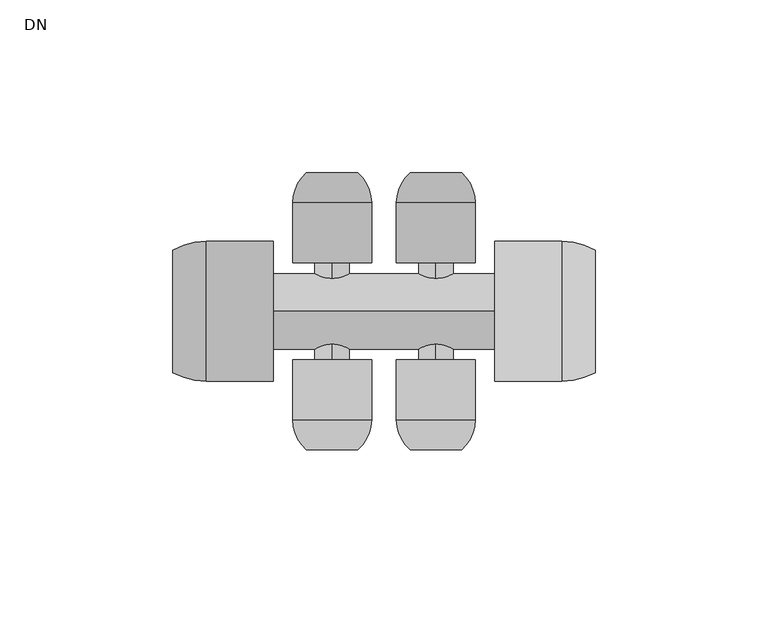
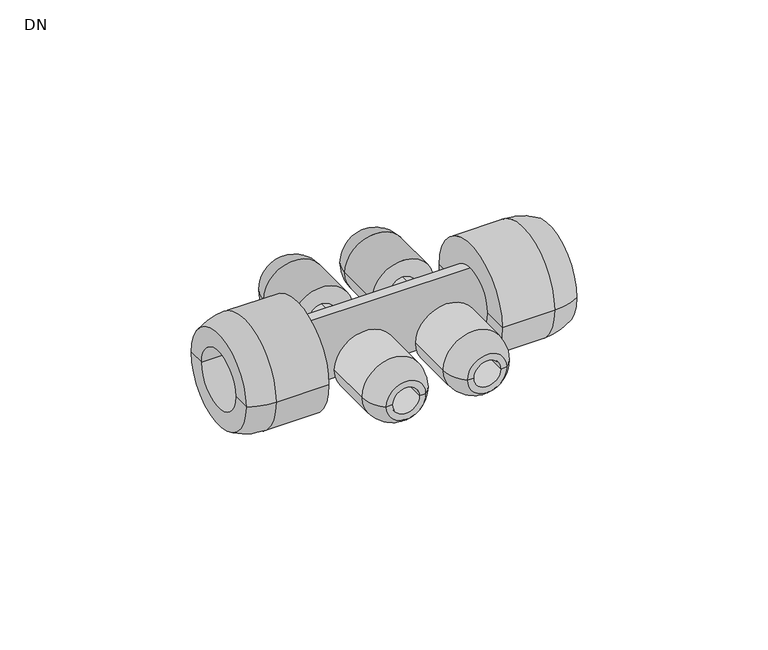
"""IFC4 building model written with IfcOpenShell, lengths in millimetres: pipe fitting geometry, Wavin_PipeFitting_Hep2oManifoldv2 : DN."""

from ifc_helpers import new_model, si_unit, point, frame, frame_2d, origin, origin_2d, place, context, project, spatial, polyline, circle_curve, ellipse_curve, trimmed, segment, composite_curve, outline, extrude, source, transform, mapped, element, save
from ifc_brep_helpers import plane_surface, cylinder_surface, revolved_surface, advanced_brep


def dn_f2cf063a(model_context):
    return source(origin(), model_context, "Body", "SolidModel", [
        advanced_brep(
        [(-12.0, -14.0, 0.0), (-22.0, -14.0, 0.0), (-22.0, -40.0, 0.0), (-12.0, -40.0, 0.0), (-5.6, -14.0, 0.0), (-28.4, -14.0, 0.0), (-5.6, -31.3333333, 0.0), (-28.4, -31.3333333, 0.0), (-9.5939964, -40.0, 0.0), (-24.4060036, -40.0, 0.0)],
        [
            (0, 1, circle_curve(frame((-17.0, -14.0, 0.0), z_axis=(0.0, 1.0, 0.0), x_axis=(-1.0, 0.0, 0.0)), 5.0)),
            (1, 2),
            (2, 3, circle_curve(frame((-17.0, -40.0, 0.0), z_axis=(0.0, -1.0, 0.0), x_axis=(-1.0, 0.0, 0.0)), 5.0)),
            (3, 0),
            (1, 0, circle_curve(frame((-17.0, -14.0, 0.0), z_axis=(0.0, 1.0, 0.0), x_axis=(-1.0, 0.0, 0.0)), 5.0)),
            (3, 2, circle_curve(frame((-17.0, -40.0, 0.0), z_axis=(0.0, -1.0, 0.0), x_axis=(-1.0, 0.0, 0.0)), 5.0)),
            (4, 5, circle_curve(frame((-17.0, -14.0, 0.0), z_axis=(0.0, 1.0, 0.0), x_axis=(-1.0, 0.0, 0.0)), 11.4)),
            (5, 1),
            (0, 4),
            (5, 4, circle_curve(frame((-17.0, -14.0, 0.0), z_axis=(0.0, 1.0, 0.0), x_axis=(-1.0, 0.0, 0.0)), 11.4)),
            (6, 7, circle_curve(frame((-17.0, -31.3333333, 0.0), z_axis=(0.0, 1.0, 0.0), x_axis=(-1.0, 0.0, 0.0)), 11.4)),
            (7, 5),
            (4, 6),
            (7, 6, circle_curve(frame((-17.0, -31.3333333, 0.0), z_axis=(0.0, 1.0, 0.0), x_axis=(-1.0, 0.0, 0.0)), 11.4)),
            (8, 9, circle_curve(frame((-17.0, -40.0, 0.0), z_axis=(0.0, 1.0, 0.0), x_axis=(-1.0, 0.0, 0.0)), 7.4060036)),
            (9, 7, circle_curve(frame((-17.0, -31.3333333, 0.0), z_axis=(0.0, 0.0, -1.0), x_axis=(0.0, 1.0, 0.0)), 11.4)),
            (6, 8, circle_curve(frame((-17.0, -31.3333333, 0.0), z_axis=(0.0, 0.0, -1.0), x_axis=(0.0, 1.0, 0.0)), 11.4)),
            (9, 8, circle_curve(frame((-17.0, -40.0, 0.0), z_axis=(0.0, 1.0, 0.0), x_axis=(-1.0, 0.0, 0.0)), 7.4060036)),
            (2, 9),
            (8, 3),
        ],
        [
            revolved_surface(polyline([(-22.0, -40.0, 0.0), (-22.0, -14.0, 0.0)]), (-17.0, 1986.0, 0.0), (0.0, -1.0, 0.0)),
            plane_surface(frame((-17.0, -14.0, 0.0), z_axis=(0.0, 1.0, 0.0), x_axis=(-1.0, 0.0, 0.0))),
            cylinder_surface(frame((-17.0, 1986.0, 0.0), z_axis=(0.0, -1.0, 0.0), x_axis=(-1.0, 0.0, 0.0)), 11.4),
            revolved_surface(trimmed(ellipse_curve(frame((-17.0, -31.3333333, 0.0), z_axis=(0.0, 0.0, 1.0), x_axis=(0.0, 1.0, 0.0)), 11.4, 11.4), [point((-28.4, -31.3333333, 0.0))], [point((-24.4060036, -40.0, 0.0))], True, "CARTESIAN"), (-17.0, 1986.0, 0.0), (0.0, -1.0, 0.0)),
            plane_surface(frame((-17.0, -40.0, 0.0), z_axis=(0.0, -1.0, 0.0), x_axis=(-1.0, 0.0, 0.0))),
        ],
        [
            (0, [[1, 2, 3, 4]]),
            (0, [[5, -4, 6, -2]]),
            (1, [[7, 8, -1, 9]]),
            (1, [[10, -9, -5, -8]]),
            (2, [[11, 12, -7, 13]]),
            (2, [[14, -13, -10, -12]]),
            (3, [[15, 16, -11, 17]]),
            (3, [[18, -17, -14, -16]]),
            (4, [[-3, 19, -15, 20]]),
            (4, [[-6, -20, -18, -19]]),
        ],
    ),
        advanced_brep(
        [(-42.0, -14.0, 0.0), (-52.0, -14.0, 0.0), (-52.0, -40.0, 0.0), (-42.0, -40.0, 0.0), (-35.6, -14.0, 0.0), (-58.4, -14.0, 0.0), (-35.6, -31.3333333, 0.0), (-58.4, -31.3333333, 0.0), (-39.5939964, -40.0, 0.0), (-54.4060036, -40.0, 0.0)],
        [
            (0, 1, circle_curve(frame((-47.0, -14.0, 0.0), z_axis=(0.0, 1.0, 0.0), x_axis=(-1.0, 0.0, 0.0)), 5.0)),
            (1, 2),
            (2, 3, circle_curve(frame((-47.0, -40.0, 0.0), z_axis=(0.0, -1.0, 0.0), x_axis=(-1.0, 0.0, 0.0)), 5.0)),
            (3, 0),
            (1, 0, circle_curve(frame((-47.0, -14.0, 0.0), z_axis=(0.0, 1.0, 0.0), x_axis=(-1.0, 0.0, 0.0)), 5.0)),
            (3, 2, circle_curve(frame((-47.0, -40.0, 0.0), z_axis=(0.0, -1.0, 0.0), x_axis=(-1.0, 0.0, 0.0)), 5.0)),
            (4, 5, circle_curve(frame((-47.0, -14.0, 0.0), z_axis=(0.0, 1.0, 0.0), x_axis=(-1.0, 0.0, 0.0)), 11.4)),
            (5, 1),
            (0, 4),
            (5, 4, circle_curve(frame((-47.0, -14.0, 0.0), z_axis=(0.0, 1.0, 0.0), x_axis=(-1.0, 0.0, 0.0)), 11.4)),
            (6, 7, circle_curve(frame((-47.0, -31.3333333, 0.0), z_axis=(0.0, 1.0, 0.0), x_axis=(-1.0, 0.0, 0.0)), 11.4)),
            (7, 5),
            (4, 6),
            (7, 6, circle_curve(frame((-47.0, -31.3333333, 0.0), z_axis=(0.0, 1.0, 0.0), x_axis=(-1.0, 0.0, 0.0)), 11.4)),
            (8, 9, circle_curve(frame((-47.0, -40.0, 0.0), z_axis=(0.0, 1.0, 0.0), x_axis=(-1.0, 0.0, 0.0)), 7.4060036)),
            (9, 7, circle_curve(frame((-47.0, -31.3333333, 0.0), z_axis=(0.0, 0.0, -1.0), x_axis=(0.0, 1.0, 0.0)), 11.4)),
            (6, 8, circle_curve(frame((-47.0, -31.3333333, 0.0), z_axis=(0.0, 0.0, -1.0), x_axis=(0.0, 1.0, 0.0)), 11.4)),
            (9, 8, circle_curve(frame((-47.0, -40.0, 0.0), z_axis=(0.0, 1.0, 0.0), x_axis=(-1.0, 0.0, 0.0)), 7.4060036)),
            (2, 9),
            (8, 3),
        ],
        [
            revolved_surface(polyline([(-52.0, -40.0, 0.0), (-52.0, -14.0, 0.0)]), (-47.0, 1986.0, 0.0), (0.0, -1.0, 0.0)),
            plane_surface(frame((-47.0, -14.0, 0.0), z_axis=(0.0, 1.0, 0.0), x_axis=(-1.0, 0.0, 0.0))),
            cylinder_surface(frame((-47.0, 1986.0, 0.0), z_axis=(0.0, -1.0, 0.0), x_axis=(-1.0, 0.0, 0.0)), 11.4),
            revolved_surface(trimmed(ellipse_curve(frame((-47.0, -31.3333333, 0.0), z_axis=(0.0, 0.0, 1.0), x_axis=(0.0, 1.0, 0.0)), 11.4, 11.4), [point((-58.4, -31.3333333, 0.0))], [point((-54.4060036, -40.0, 0.0))], True, "CARTESIAN"), (-47.0, 1986.0, 0.0), (0.0, -1.0, 0.0)),
            plane_surface(frame((-47.0, -40.0, 0.0), z_axis=(0.0, -1.0, 0.0), x_axis=(-1.0, 0.0, 0.0))),
        ],
        [
            (0, [[1, 2, 3, 4]]),
            (0, [[5, -4, 6, -2]]),
            (1, [[7, 8, -1, 9]]),
            (1, [[10, -9, -5, -8]]),
            (2, [[11, 12, -7, 13]]),
            (2, [[14, -13, -10, -12]]),
            (3, [[15, 16, -11, 17]]),
            (3, [[18, -17, -14, -16]]),
            (4, [[-3, 19, -15, 20]]),
            (4, [[-6, -20, -18, -19]]),
        ],
    ),
        advanced_brep(
        [(-52.0, 14.0, 0.0), (-42.0, 14.0, 0.0), (-42.0, 40.0, 0.0), (-52.0, 40.0, 0.0), (-58.4, 14.0, 0.0), (-35.6, 14.0, 0.0), (-58.4, 31.3333333, 0.0), (-35.6, 31.3333333, 0.0), (-54.4060036, 40.0, 0.0), (-39.5939964, 40.0, 0.0)],
        [
            (0, 1, circle_curve(frame((-47.0, 14.0, 0.0), z_axis=(0.0, -1.0, 0.0), x_axis=(1.0, 0.0, 0.0)), 5.0)),
            (1, 2),
            (2, 3, circle_curve(frame((-47.0, 40.0, 0.0), z_axis=(0.0, 1.0, 0.0), x_axis=(1.0, 0.0, 0.0)), 5.0)),
            (3, 0),
            (1, 0, circle_curve(frame((-47.0, 14.0, 0.0), z_axis=(0.0, -1.0, 0.0), x_axis=(1.0, 0.0, 0.0)), 5.0)),
            (3, 2, circle_curve(frame((-47.0, 40.0, 0.0), z_axis=(0.0, 1.0, 0.0), x_axis=(1.0, 0.0, 0.0)), 5.0)),
            (4, 5, circle_curve(frame((-47.0, 14.0, 0.0), z_axis=(0.0, -1.0, 0.0), x_axis=(1.0, 0.0, 0.0)), 11.4)),
            (5, 1),
            (0, 4),
            (5, 4, circle_curve(frame((-47.0, 14.0, 0.0), z_axis=(0.0, -1.0, 0.0), x_axis=(1.0, 0.0, 0.0)), 11.4)),
            (6, 7, circle_curve(frame((-47.0, 31.3333333, 0.0), z_axis=(0.0, -1.0, 0.0), x_axis=(1.0, 0.0, 0.0)), 11.4)),
            (7, 5),
            (4, 6),
            (7, 6, circle_curve(frame((-47.0, 31.3333333, 0.0), z_axis=(0.0, -1.0, 0.0), x_axis=(1.0, 0.0, 0.0)), 11.4)),
            (8, 9, circle_curve(frame((-47.0, 40.0, 0.0), z_axis=(0.0, -1.0, 0.0), x_axis=(1.0, 0.0, 0.0)), 7.4060036)),
            (9, 7, circle_curve(frame((-47.0, 31.3333333, 0.0), z_axis=(0.0, 0.0, -1.0), x_axis=(0.0, -1.0, 0.0)), 11.4)),
            (6, 8, circle_curve(frame((-47.0, 31.3333333, 0.0), z_axis=(0.0, 0.0, -1.0), x_axis=(0.0, -1.0, 0.0)), 11.4)),
            (9, 8, circle_curve(frame((-47.0, 40.0, 0.0), z_axis=(0.0, -1.0, 0.0), x_axis=(1.0, 0.0, 0.0)), 7.4060036)),
            (2, 9),
            (8, 3),
        ],
        [
            revolved_surface(polyline([(-42.0, 40.0, 0.0), (-42.0, 14.0, 0.0)]), (-47.0, -1986.0, 0.0), (0.0, 1.0, 0.0)),
            plane_surface(frame((-47.0, 14.0, 0.0), z_axis=(0.0, -1.0, 0.0), x_axis=(1.0, 0.0, 0.0))),
            cylinder_surface(frame((-47.0, -1986.0, 0.0), z_axis=(0.0, 1.0, 0.0), x_axis=(1.0, 0.0, 0.0)), 11.4),
            revolved_surface(trimmed(ellipse_curve(frame((-47.0, 31.3333333, 0.0), z_axis=(0.0, 0.0, 1.0), x_axis=(0.0, -1.0, 0.0)), 11.4, 11.4), [point((-35.6, 31.3333333, 0.0))], [point((-39.5939964, 40.0, 0.0))], True, "CARTESIAN"), (-47.0, -1986.0, 0.0), (0.0, 1.0, 0.0)),
            plane_surface(frame((-47.0, 40.0, 0.0), z_axis=(0.0, 1.0, 0.0), x_axis=(1.0, 0.0, 0.0))),
        ],
        [
            (0, [[1, 2, 3, 4]]),
            (0, [[5, -4, 6, -2]]),
            (1, [[7, 8, -1, 9]]),
            (1, [[10, -9, -5, -8]]),
            (2, [[11, 12, -7, 13]]),
            (2, [[14, -13, -10, -12]]),
            (3, [[15, 16, -11, 17]]),
            (3, [[18, -17, -14, -16]]),
            (4, [[-3, 19, -15, 20]]),
            (4, [[-6, -20, -18, -19]]),
        ],
    ),
        advanced_brep(
        [(-22.0, 14.0, 0.0), (-12.0, 14.0, 0.0), (-12.0, 40.0, 0.0), (-22.0, 40.0, 0.0), (-28.4, 14.0, 0.0), (-5.6, 14.0, 0.0), (-28.4, 31.3333333, 0.0), (-5.6, 31.3333333, 0.0), (-24.4060036, 40.0, 0.0), (-9.5939964, 40.0, 0.0)],
        [
            (0, 1, circle_curve(frame((-17.0, 14.0, 0.0), z_axis=(0.0, -1.0, 0.0), x_axis=(1.0, 0.0, 0.0)), 5.0)),
            (1, 2),
            (2, 3, circle_curve(frame((-17.0, 40.0, 0.0), z_axis=(0.0, 1.0, 0.0), x_axis=(1.0, 0.0, 0.0)), 5.0)),
            (3, 0),
            (1, 0, circle_curve(frame((-17.0, 14.0, 0.0), z_axis=(0.0, -1.0, 0.0), x_axis=(1.0, 0.0, 0.0)), 5.0)),
            (3, 2, circle_curve(frame((-17.0, 40.0, 0.0), z_axis=(0.0, 1.0, 0.0), x_axis=(1.0, 0.0, 0.0)), 5.0)),
            (4, 5, circle_curve(frame((-17.0, 14.0, 0.0), z_axis=(0.0, -1.0, 0.0), x_axis=(1.0, 0.0, 0.0)), 11.4)),
            (5, 1),
            (0, 4),
            (5, 4, circle_curve(frame((-17.0, 14.0, 0.0), z_axis=(0.0, -1.0, 0.0), x_axis=(1.0, 0.0, 0.0)), 11.4)),
            (6, 7, circle_curve(frame((-17.0, 31.3333333, 0.0), z_axis=(0.0, -1.0, 0.0), x_axis=(1.0, 0.0, 0.0)), 11.4)),
            (7, 5),
            (4, 6),
            (7, 6, circle_curve(frame((-17.0, 31.3333333, 0.0), z_axis=(0.0, -1.0, 0.0), x_axis=(1.0, 0.0, 0.0)), 11.4)),
            (8, 9, circle_curve(frame((-17.0, 40.0, 0.0), z_axis=(0.0, -1.0, 0.0), x_axis=(1.0, 0.0, 0.0)), 7.4060036)),
            (9, 7, circle_curve(frame((-17.0, 31.3333333, 0.0), z_axis=(0.0, 0.0, -1.0), x_axis=(0.0, -1.0, 0.0)), 11.4)),
            (6, 8, circle_curve(frame((-17.0, 31.3333333, 0.0), z_axis=(0.0, 0.0, -1.0), x_axis=(0.0, -1.0, 0.0)), 11.4)),
            (9, 8, circle_curve(frame((-17.0, 40.0, 0.0), z_axis=(0.0, -1.0, 0.0), x_axis=(1.0, 0.0, 0.0)), 7.4060036)),
            (2, 9),
            (8, 3),
        ],
        [
            revolved_surface(polyline([(-12.0, 40.0, 0.0), (-12.0, 14.0, 0.0)]), (-17.0, -1986.0, 0.0), (0.0, 1.0, 0.0)),
            plane_surface(frame((-17.0, 14.0, 0.0), z_axis=(0.0, -1.0, 0.0), x_axis=(1.0, 0.0, 0.0))),
            cylinder_surface(frame((-17.0, -1986.0, 0.0), z_axis=(0.0, 1.0, 0.0), x_axis=(1.0, 0.0, 0.0)), 11.4),
            revolved_surface(trimmed(ellipse_curve(frame((-17.0, 31.3333333, 0.0), z_axis=(0.0, 0.0, 1.0), x_axis=(0.0, -1.0, 0.0)), 11.4, 11.4), [point((-5.6, 31.3333333, 0.0))], [point((-9.5939964, 40.0, 0.0))], True, "CARTESIAN"), (-17.0, -1986.0, 0.0), (0.0, 1.0, 0.0)),
            plane_surface(frame((-17.0, 40.0, 0.0), z_axis=(0.0, 1.0, 0.0), x_axis=(1.0, 0.0, 0.0))),
        ],
        [
            (0, [[1, 2, 3, 4]]),
            (0, [[5, -4, 6, -2]]),
            (1, [[7, 8, -1, 9]]),
            (1, [[10, -9, -5, -8]]),
            (2, [[11, 12, -7, 13]]),
            (2, [[14, -13, -10, -12]]),
            (3, [[15, 16, -11, 17]]),
            (3, [[18, -17, -14, -16]]),
            (4, [[-3, 19, -15, 20]]),
            (4, [[-6, -20, -18, -19]]),
        ],
    ),
        advanced_brep(
        [(0.0, 11.0, 0.0), (0.0, -11.0, 0.0), (29.0, -11.0, 0.0), (29.0, 11.0, 0.0), (0.0, 20.2, 0.0), (0.0, -20.2, 0.0), (19.3333333, 20.2, 0.0), (19.3333333, -20.2, 0.0), (29.0, 17.7368418, 0.0), (29.0, -17.7368418, 0.0)],
        [
            (0, 1, circle_curve(frame((0.0, 0.0, 0.0), z_axis=(-1.0, 0.0, 0.0), x_axis=(0.0, -1.0, 0.0)), 11.0)),
            (1, 2),
            (2, 3, circle_curve(frame((29.0, 0.0, 0.0), z_axis=(1.0, 0.0, 0.0), x_axis=(0.0, -1.0, 0.0)), 11.0)),
            (3, 0),
            (1, 0, circle_curve(frame((0.0, 0.0, 0.0), z_axis=(-1.0, 0.0, 0.0), x_axis=(0.0, -1.0, 0.0)), 11.0)),
            (3, 2, circle_curve(frame((29.0, 0.0, 0.0), z_axis=(1.0, 0.0, 0.0), x_axis=(0.0, -1.0, 0.0)), 11.0)),
            (4, 5, circle_curve(frame((0.0, 0.0, 0.0), z_axis=(-1.0, 0.0, 0.0), x_axis=(0.0, -1.0, 0.0)), 20.2)),
            (5, 1),
            (0, 4),
            (5, 4, circle_curve(frame((0.0, 0.0, 0.0), z_axis=(-1.0, 0.0, 0.0), x_axis=(0.0, -1.0, 0.0)), 20.2)),
            (6, 7, circle_curve(frame((19.3333333, 0.0, 0.0), z_axis=(-1.0, 0.0, 0.0), x_axis=(0.0, -1.0, 0.0)), 20.2)),
            (7, 5),
            (4, 6),
            (7, 6, circle_curve(frame((19.3333333, 0.0, 0.0), z_axis=(-1.0, 0.0, 0.0), x_axis=(0.0, -1.0, 0.0)), 20.2)),
            (8, 9, circle_curve(frame((29.0, 0.0, 0.0), z_axis=(-1.0, 0.0, 0.0), x_axis=(0.0, -1.0, 0.0)), 17.7368418)),
            (9, 7, circle_curve(frame((19.3333333, 0.0, 0.0), z_axis=(0.0, 0.0, -1.0), x_axis=(-1.0, 0.0, 0.0)), 20.2)),
            (6, 8, circle_curve(frame((19.3333333, 0.0, 0.0), z_axis=(0.0, 0.0, -1.0), x_axis=(-1.0, 0.0, 0.0)), 20.2)),
            (9, 8, circle_curve(frame((29.0, 0.0, 0.0), z_axis=(-1.0, 0.0, 0.0), x_axis=(0.0, -1.0, 0.0)), 17.7368418)),
            (2, 9),
            (8, 3),
        ],
        [
            revolved_surface(polyline([(29.0, -11.0, 0.0), (0.0, -11.0, 0.0)]), (-2000.0, 0.0, 0.0), (1.0, 0.0, 0.0)),
            plane_surface(frame((0.0, 0.0, 0.0), z_axis=(-1.0, 0.0, 0.0), x_axis=(0.0, -1.0, 0.0))),
            cylinder_surface(frame((-2000.0, 0.0, 0.0), z_axis=(1.0, 0.0, 0.0), x_axis=(0.0, -1.0, 0.0)), 20.2),
            revolved_surface(trimmed(ellipse_curve(frame((19.3333333, 0.0, 0.0), z_axis=(0.0, 0.0, 1.0), x_axis=(-1.0, 0.0, 0.0)), 20.2, 20.2), [point((19.3333333, -20.2, 0.0))], [point((29.0, -17.7368418, 0.0))], True, "CARTESIAN"), (-2000.0, 0.0, 0.0), (1.0, 0.0, 0.0)),
            plane_surface(frame((29.0, 0.0, 0.0), z_axis=(1.0, 0.0, 0.0), x_axis=(0.0, -1.0, 0.0))),
        ],
        [
            (0, [[1, 2, 3, 4]]),
            (0, [[5, -4, 6, -2]]),
            (1, [[7, 8, -1, 9]]),
            (1, [[10, -9, -5, -8]]),
            (2, [[11, 12, -7, 13]]),
            (2, [[14, -13, -10, -12]]),
            (3, [[15, 16, -11, 17]]),
            (3, [[18, -17, -14, -16]]),
            (4, [[-3, 19, -15, 20]]),
            (4, [[-6, -20, -18, -19]]),
        ],
    ),
        advanced_brep(
        [(-64.0, -11.0, 0.0), (-64.0, 11.0, 0.0), (-93.0, 11.0, 0.0), (-93.0, -11.0, 0.0), (-64.0, -20.2, 0.0), (-64.0, 20.2, 0.0), (-83.3333333, -20.2, 0.0), (-83.3333333, 20.2, 0.0), (-93.0, -17.7368418, 0.0), (-93.0, 17.7368418, 0.0)],
        [
            (0, 1, circle_curve(frame((-64.0, 0.0, 0.0), z_axis=(1.0, 0.0, 0.0), x_axis=(0.0, 1.0, 0.0)), 11.0)),
            (1, 2),
            (2, 3, circle_curve(frame((-93.0, 0.0, 0.0), z_axis=(-1.0, 0.0, 0.0), x_axis=(0.0, 1.0, 0.0)), 11.0)),
            (3, 0),
            (1, 0, circle_curve(frame((-64.0, 0.0, 0.0), z_axis=(1.0, 0.0, 0.0), x_axis=(0.0, 1.0, 0.0)), 11.0)),
            (3, 2, circle_curve(frame((-93.0, 0.0, 0.0), z_axis=(-1.0, 0.0, 0.0), x_axis=(0.0, 1.0, 0.0)), 11.0)),
            (4, 5, circle_curve(frame((-64.0, 0.0, 0.0), z_axis=(1.0, 0.0, 0.0), x_axis=(0.0, 1.0, 0.0)), 20.2)),
            (5, 1),
            (0, 4),
            (5, 4, circle_curve(frame((-64.0, 0.0, 0.0), z_axis=(1.0, 0.0, 0.0), x_axis=(0.0, 1.0, 0.0)), 20.2)),
            (6, 7, circle_curve(frame((-83.3333333, 0.0, 0.0), z_axis=(1.0, 0.0, 0.0), x_axis=(0.0, 1.0, 0.0)), 20.2)),
            (7, 5),
            (4, 6),
            (7, 6, circle_curve(frame((-83.3333333, 0.0, 0.0), z_axis=(1.0, 0.0, 0.0), x_axis=(0.0, 1.0, 0.0)), 20.2)),
            (8, 9, circle_curve(frame((-93.0, 0.0, 0.0), z_axis=(1.0, 0.0, 0.0), x_axis=(0.0, 1.0, 0.0)), 17.7368418)),
            (9, 7, circle_curve(frame((-83.3333333, 0.0, 0.0), z_axis=(0.0, 0.0, -1.0), x_axis=(1.0, 0.0, 0.0)), 20.2)),
            (6, 8, circle_curve(frame((-83.3333333, 0.0, 0.0), z_axis=(0.0, 0.0, -1.0), x_axis=(1.0, 0.0, 0.0)), 20.2)),
            (9, 8, circle_curve(frame((-93.0, 0.0, 0.0), z_axis=(1.0, 0.0, 0.0), x_axis=(0.0, 1.0, 0.0)), 17.7368418)),
            (2, 9),
            (8, 3),
        ],
        [
            revolved_surface(polyline([(-93.0, 11.0, 0.0), (-64.0, 11.0, 0.0)]), (1936.0, 0.0, 0.0), (-1.0, 0.0, 0.0)),
            plane_surface(frame((-64.0, 0.0, 0.0), z_axis=(1.0, 0.0, 0.0), x_axis=(0.0, 1.0, 0.0))),
            cylinder_surface(frame((1936.0, 0.0, 0.0), z_axis=(-1.0, 0.0, 0.0), x_axis=(0.0, 1.0, 0.0)), 20.2),
            revolved_surface(trimmed(ellipse_curve(frame((-83.3333333, 0.0, 0.0), z_axis=(0.0, 0.0, 1.0), x_axis=(1.0, 0.0, 0.0)), 20.2, 20.2), [point((-83.3333333, 20.2, 0.0))], [point((-93.0, 17.7368418, 0.0))], True, "CARTESIAN"), (1936.0, 0.0, 0.0), (-1.0, 0.0, 0.0)),
            plane_surface(frame((-93.0, 0.0, 0.0), z_axis=(-1.0, 0.0, 0.0), x_axis=(0.0, 1.0, 0.0))),
        ],
        [
            (0, [[1, 2, 3, 4]]),
            (0, [[5, -4, 6, -2]]),
            (1, [[7, 8, -1, 9]]),
            (1, [[10, -9, -5, -8]]),
            (2, [[11, 12, -7, 13]]),
            (2, [[14, -13, -10, -12]]),
            (3, [[15, 16, -11, 17]]),
            (3, [[18, -17, -14, -16]]),
            (4, [[-3, 19, -15, 20]]),
            (4, [[-6, -20, -18, -19]]),
        ],
    ),
        extrude(outline(composite_curve([segment(trimmed(circle_curve(frame_2d((0.0, -17.0)), 5.0), [point((-5.0, -17.0))], [point((5.0, -17.0))], False, "CARTESIAN"), True, "CONTINUOUS"), segment(trimmed(circle_curve(frame_2d((0.0, -17.0)), 5.0), [point((5.0, -17.0))], [point((-5.0, -17.0))], False, "CARTESIAN"), True, "CONTINUOUS")], self_intersect=False)), frame((0.0, -14.0, 0.0), z_axis=(0.0, 1.0, 0.0), x_axis=(0.0, 0.0, 1.0)), (0.0, 0.0, 1.0), 28.0),
        extrude(outline(composite_curve([segment(trimmed(circle_curve(frame_2d((0.0, -47.0)), 5.0), [point((-5.0, -47.0))], [point((5.0, -47.0))], False, "CARTESIAN"), True, "CONTINUOUS"), segment(trimmed(circle_curve(frame_2d((0.0, -47.0)), 5.0), [point((5.0, -47.0))], [point((-5.0, -47.0))], False, "CARTESIAN"), True, "CONTINUOUS")], self_intersect=False)), frame((0.0, -14.0, 0.0), z_axis=(0.0, 1.0, 0.0), x_axis=(0.0, 0.0, 1.0)), (0.0, 0.0, 1.0), 28.0),
        extrude(outline(composite_curve([segment(trimmed(circle_curve(origin_2d(), 11.0), [point((0.0, -11.0))], [point((0.0, 11.0))], False, "CARTESIAN"), True, "CONTINUOUS"), segment(trimmed(circle_curve(origin_2d(), 11.0), [point((0.0, 11.0))], [point((0.0, -11.0))], False, "CARTESIAN"), True, "CONTINUOUS")], self_intersect=False)), frame((-64.0, 0.0, 0.0), z_axis=(1.0, 0.0, 0.0), x_axis=(0.0, 1.0, 0.0)), (0.0, 0.0, 1.0), 64.0),
    ])


if __name__ == "__main__":
    model = new_model("IFC4")
    model_context = context("Model", 3, world=origin())
    ifc_project = project(units=[si_unit("LENGTHUNIT", "METRE", prefix="MILLI")], contexts=[model_context])
    site = spatial("IfcSite", under=ifc_project)
    building = spatial("IfcBuilding", under=site)
    placement = place(None, origin())
    dn_shape = dn_f2cf063a(model_context)
    element("IfcPipeFitting", 1, ObjectType="Wavin_PipeFitting_Hep2oManifoldv2 : DN", at=placement, inside=building, context=model_context, shape_type="MappedRepresentation", body=[
        mapped(dn_shape, transform((0.0, 0.0, 0.0), x_axis=(1.0, 0.0, 0.0), y_axis=(0.0, 1.0, 0.0), z_axis=(0.0, 0.0, 1.0))),
    ])
    save(model, "model.ifc")
